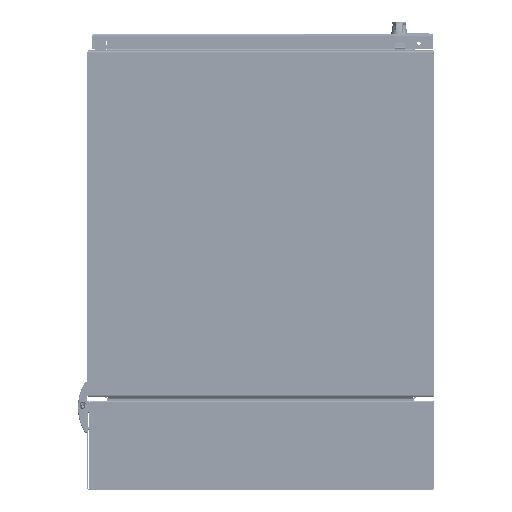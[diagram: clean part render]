
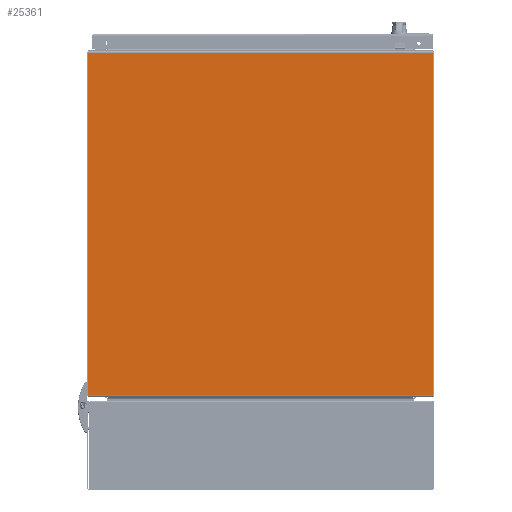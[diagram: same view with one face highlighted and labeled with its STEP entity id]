
A CAD part, front view. The second image highlights one B-rep face of the part: STEP entity #25361.
In plain terms, the highlighted planar face has unit normal (0, -1, 0).
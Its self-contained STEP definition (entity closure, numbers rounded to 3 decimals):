
#5073 = CARTESIAN_POINT ( 'NONE',  ( -298.171, 0., -295.885 ) ) ;
#5164 = CARTESIAN_POINT ( 'NONE',  ( -298.171, 0., 295.885 ) ) ;
#7763 = CARTESIAN_POINT ( 'NONE',  ( 298.171, 0., -295.885 ) ) ;
#8052 = CARTESIAN_POINT ( 'NONE',  ( 298.171, 0., 295.885 ) ) ;
#25361 = ADVANCED_FACE ( 'NONE', ( #80962 ), #98376, .F. ) ;
#60474 = AXIS2_PLACEMENT_3D ( 'NONE', #98374, #98379, #98380 ) ;
#69195 = VERTEX_POINT ( 'NONE', #5073 ) ;
#69357 = VERTEX_POINT ( 'NONE', #5164 ) ;
#71203 = VERTEX_POINT ( 'NONE', #7763 ) ;
#71750 = VERTEX_POINT ( 'NONE', #8052 ) ;
#80962 = FACE_OUTER_BOUND ( 'NONE', #138404, .T. ) ;
#95260 = CARTESIAN_POINT ( 'NONE',  ( 298.171, 0., -300. ) ) ;
#95266 = DIRECTION ( 'NONE',  ( 0., 0., -1. ) ) ;
#95275 = CARTESIAN_POINT ( 'NONE',  ( -298.171, 0., -300. ) ) ;
#95276 = DIRECTION ( 'NONE',  ( 0., 0., 1. ) ) ;
#95329 = CARTESIAN_POINT ( 'NONE',  ( 298.171, 0., 295.885 ) ) ;
#95334 = DIRECTION ( 'NONE',  ( -1., 0., 0. ) ) ;
#95340 = CARTESIAN_POINT ( 'NONE',  ( -298.171, 0., -295.885 ) ) ;
#95342 = DIRECTION ( 'NONE',  ( 1., 0., 0. ) ) ;
#98374 = CARTESIAN_POINT ( 'NONE',  ( 298.171, 0., 300. ) ) ;
#98376 = PLANE ( 'NONE',  #60474 ) ;
#98379 = DIRECTION ( 'NONE',  ( 0., 1., 0. ) ) ;
#98380 = DIRECTION ( 'NONE',  ( 0., 0., 1. ) ) ;
#99400 = LINE ( 'NONE', #95260, #99408 ) ;
#99403 = VECTOR ( 'NONE', #95276, 1000. ) ;
#99407 = LINE ( 'NONE', #95275, #99403 ) ;
#99408 = VECTOR ( 'NONE', #95266, 1000. ) ;
#99423 = LINE ( 'NONE', #95329, #99429 ) ;
#99428 = VECTOR ( 'NONE', #95342, 1000. ) ;
#99429 = VECTOR ( 'NONE', #95334, 1000. ) ;
#99430 = LINE ( 'NONE', #95340, #99428 ) ;
#138404 = EDGE_LOOP ( 'NONE', ( #166551, #166552, #166553, #166554 ) ) ;
#151947 = EDGE_CURVE ( 'NONE', #71750, #71203, #99400, .T. ) ;
#151951 = EDGE_CURVE ( 'NONE', #69195, #69357, #99407, .T. ) ;
#151996 = EDGE_CURVE ( 'NONE', #71750, #69357, #99423, .T. ) ;
#152002 = EDGE_CURVE ( 'NONE', #69195, #71203, #99430, .T. ) ;
#166551 = ORIENTED_EDGE ( 'NONE', *, *, #152002, .T. ) ;
#166552 = ORIENTED_EDGE ( 'NONE', *, *, #151947, .F. ) ;
#166553 = ORIENTED_EDGE ( 'NONE', *, *, #151996, .T. ) ;
#166554 = ORIENTED_EDGE ( 'NONE', *, *, #151951, .F. ) ;
